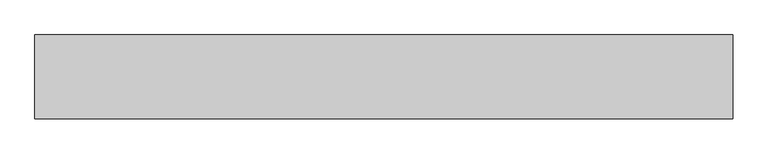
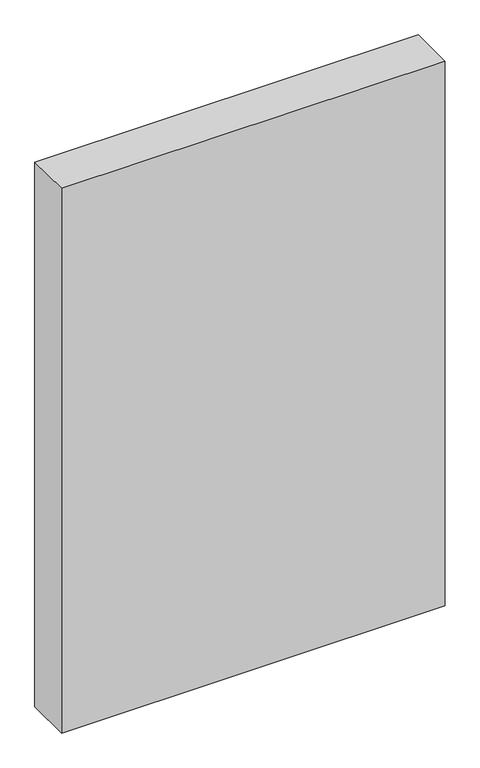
"""IFC4 building model written with IfcOpenShell, lengths in millimetres: proxy geometry."""

from ifc_helpers import new_model, si_unit, frame, origin, place, context, project, spatial, polyline, outline, extrude, source, transform, mapped, element, save


def generic_models_180a9216(model_context):
    return source(origin(), model_context, "Body", "SweptSolid", [
        extrude(outline(polyline([(3081.9785464, -60.0), (2081.9785464, -60.0), (2081.9785464, 60.0), (3081.9785464, 60.0), (3081.9785464, -60.0)])), frame((0.0, 0.0, 180.8), z_axis=(0.0, 0.0, 1.0), x_axis=(1.0, 0.0, 0.0)), (0.0, 0.0, 1.0), 1500.0),
    ])


if __name__ == "__main__":
    model = new_model("IFC4")
    model_context = context("Model", 3, world=origin())
    ifc_project = project(units=[si_unit("LENGTHUNIT", "METRE", prefix="MILLI")], contexts=[model_context])
    site = spatial("IfcSite", under=ifc_project)
    building = spatial("IfcBuilding", under=site)
    placement = place(None, origin())
    generic_models_shape = generic_models_180a9216(model_context)
    element("IfcBuildingElementProxy", 1, Name="Generic Models", at=placement, inside=building, context=model_context, shape_type="MappedRepresentation", body=[
        mapped(generic_models_shape, transform((0.0, 0.0, 0.0), x_axis=(1.0, 0.0, 0.0), y_axis=(0.0, 1.0, 0.0), z_axis=(0.0, 0.0, 1.0))),
    ])
    save(model, "model.ifc")
